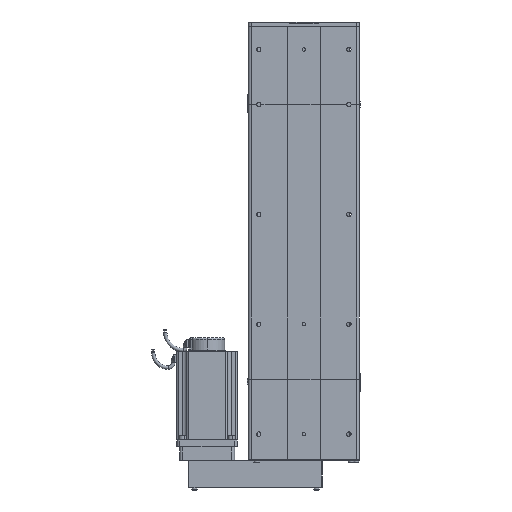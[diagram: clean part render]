
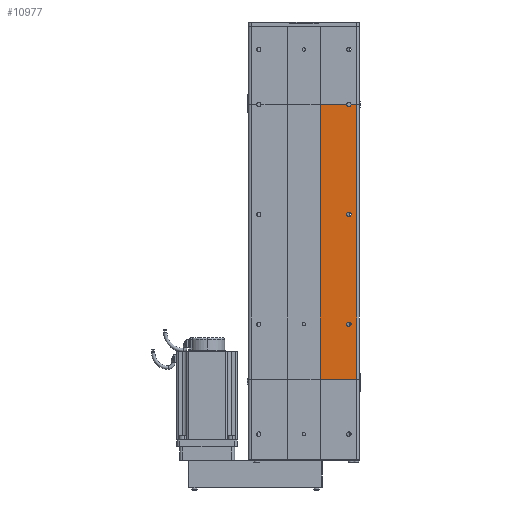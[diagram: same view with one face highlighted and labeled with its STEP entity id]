
A CAD part, front view. The second image highlights one B-rep face of the part: STEP entity #10977.
In plain terms, the highlighted planar face has unit normal (0, -1, 0).
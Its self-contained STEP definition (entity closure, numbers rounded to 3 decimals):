
#522 = CARTESIAN_POINT ( 'NONE',  ( 96., -34.5, 500. ) ) ;
#1465 = FACE_OUTER_BOUND ( 'NONE', #10587, .T. ) ;
#1602 = FACE_BOUND ( 'NONE', #11094, .T. ) ;
#1764 = FACE_BOUND ( 'NONE', #11039, .T. ) ;
#1857 = DIRECTION ( 'NONE',  ( 0., 0., -1. ) ) ;
#1858 = VECTOR ( 'NONE', #1857, 1000. ) ;
#1859 = CARTESIAN_POINT ( 'NONE',  ( 96., -34.5, 500. ) ) ;
#1861 = LINE ( 'NONE', #1859, #1858 ) ;
#1978 = CARTESIAN_POINT ( 'NONE',  ( 82., -34.5, 500. ) ) ;
#1984 = DIRECTION ( 'NONE',  ( 0., 1., 0. ) ) ;
#1985 = CARTESIAN_POINT ( 'NONE',  ( -96., -34.5, 500. ) ) ;
#1987 = AXIS2_PLACEMENT_3D ( 'NONE', #1978, #2008, #2007 ) ;
#2007 = DIRECTION ( 'NONE',  ( 1., 0., 0. ) ) ;
#2008 = DIRECTION ( 'NONE',  ( 0., -1., 0. ) ) ;
#2021 = DIRECTION ( 'NONE',  ( 1., 0., 0. ) ) ;
#2022 = DIRECTION ( 'NONE',  ( 0., -1., 0. ) ) ;
#2023 = CARTESIAN_POINT ( 'NONE',  ( 82., -34.5, 100. ) ) ;
#2024 = CIRCLE ( 'NONE', #1987, 4. ) ;
#2068 = AXIS2_PLACEMENT_3D ( 'NONE', #1985, #1984, #2121 ) ;
#2103 = PLANE ( 'NONE',  #2068 ) ;
#2115 = AXIS2_PLACEMENT_3D ( 'NONE', #2023, #2022, #2021 ) ;
#2121 = DIRECTION ( 'NONE',  ( -1., 0., 0. ) ) ;
#2135 = CIRCLE ( 'NONE', #2142, 4. ) ;
#2136 = CIRCLE ( 'NONE', #2115, 4. ) ;
#2139 = DIRECTION ( 'NONE',  ( 1., 0., 0. ) ) ;
#2140 = DIRECTION ( 'NONE',  ( 0., -1., 0. ) ) ;
#2141 = CARTESIAN_POINT ( 'NONE',  ( 82., -34.5, 300. ) ) ;
#2142 = AXIS2_PLACEMENT_3D ( 'NONE', #2141, #2140, #2139 ) ;
#2421 = LINE ( 'NONE', #2488, #2487 ) ;
#2486 = DIRECTION ( 'NONE',  ( 1., 0., 0. ) ) ;
#2487 = VECTOR ( 'NONE', #2486, 1000. ) ;
#2488 = CARTESIAN_POINT ( 'NONE',  ( -96., -34.5, 0. ) ) ;
#2623 = DIRECTION ( 'NONE',  ( 0., 0., 1. ) ) ;
#2624 = VECTOR ( 'NONE', #2623, 1000. ) ;
#2625 = CARTESIAN_POINT ( 'NONE',  ( 30., -34.5, 0. ) ) ;
#2626 = LINE ( 'NONE', #2625, #2624 ) ;
#2632 = CARTESIAN_POINT ( 'NONE',  ( 30., -34.5, 0. ) ) ;
#2764 = CARTESIAN_POINT ( 'NONE',  ( 96., -34.5, 0. ) ) ;
#8526 = VERTEX_POINT ( 'NONE', #74496 ) ;
#8664 = EDGE_CURVE ( 'NONE', #8668, #8526, #74757, .T. ) ;
#8668 = VERTEX_POINT ( 'NONE', #74762 ) ;
#8821 = EDGE_CURVE ( 'NONE', #9015, #8995, #75120, .T. ) ;
#8995 = VERTEX_POINT ( 'NONE', #75202 ) ;
#9015 = VERTEX_POINT ( 'NONE', #75199 ) ;
#9845 = VERTEX_POINT ( 'NONE', #77165 ) ;
#9960 = EDGE_CURVE ( 'NONE', #9845, #10136, #77377, .T. ) ;
#10136 = VERTEX_POINT ( 'NONE', #522 ) ;
#10587 = EDGE_LOOP ( 'NONE', ( #10985, #10996, #11028, #11029, #10956, #11357 ) ) ;
#10956 = ORIENTED_EDGE ( 'NONE', *, *, #11211, .T. ) ;
#10958 = EDGE_CURVE ( 'NONE', #10136, #11232, #1861, .T. ) ;
#10977 = ADVANCED_FACE ( 'NONE', ( #1764, #1602, #1465 ), #2103, .F. ) ;
#10981 = ORIENTED_EDGE ( 'NONE', *, *, #8664, .F. ) ;
#10982 = EDGE_CURVE ( 'NONE', #8526, #8668, #2135, .T. ) ;
#10985 = ORIENTED_EDGE ( 'NONE', *, *, #9960, .F. ) ;
#10986 = EDGE_CURVE ( 'NONE', #24364, #24103, #2136, .T. ) ;
#10987 = ORIENTED_EDGE ( 'NONE', *, *, #24191, .F. ) ;
#10993 = ORIENTED_EDGE ( 'NONE', *, *, #10986, .F. ) ;
#10996 = ORIENTED_EDGE ( 'NONE', *, *, #10998, .F. ) ;
#10998 = EDGE_CURVE ( 'NONE', #8995, #9845, #2024, .T. ) ;
#11028 = ORIENTED_EDGE ( 'NONE', *, *, #8821, .F. ) ;
#11029 = ORIENTED_EDGE ( 'NONE', *, *, #11251, .F. ) ;
#11039 = EDGE_LOOP ( 'NONE', ( #11386, #10981 ) ) ;
#11094 = EDGE_LOOP ( 'NONE', ( #10993, #10987 ) ) ;
#11211 = EDGE_CURVE ( 'NONE', #11253, #11232, #2421, .T. ) ;
#11232 = VERTEX_POINT ( 'NONE', #2764 ) ;
#11251 = EDGE_CURVE ( 'NONE', #11253, #9015, #2626, .T. ) ;
#11253 = VERTEX_POINT ( 'NONE', #2632 ) ;
#11357 = ORIENTED_EDGE ( 'NONE', *, *, #10958, .F. ) ;
#11386 = ORIENTED_EDGE ( 'NONE', *, *, #10982, .F. ) ;
#24103 = VERTEX_POINT ( 'NONE', #28983 ) ;
#24191 = EDGE_CURVE ( 'NONE', #24103, #24364, #29053, .T. ) ;
#24364 = VERTEX_POINT ( 'NONE', #29687 ) ;
#28983 = CARTESIAN_POINT ( 'NONE',  ( 78., -34.5, 100. ) ) ;
#29049 = DIRECTION ( 'NONE',  ( 1., 0., 0. ) ) ;
#29050 = DIRECTION ( 'NONE',  ( 0., -1., 0. ) ) ;
#29051 = CARTESIAN_POINT ( 'NONE',  ( 82., -34.5, 100. ) ) ;
#29052 = AXIS2_PLACEMENT_3D ( 'NONE', #29051, #29050, #29049 ) ;
#29053 = CIRCLE ( 'NONE', #29052, 4. ) ;
#29687 = CARTESIAN_POINT ( 'NONE',  ( 86., -34.5, 100. ) ) ;
#74496 = CARTESIAN_POINT ( 'NONE',  ( 86., -34.5, 300. ) ) ;
#74689 = DIRECTION ( 'NONE',  ( 1., 0., 0. ) ) ;
#74690 = DIRECTION ( 'NONE',  ( 0., -1., 0. ) ) ;
#74756 = AXIS2_PLACEMENT_3D ( 'NONE', #74763, #74690, #74689 ) ;
#74757 = CIRCLE ( 'NONE', #74756, 4. ) ;
#74762 = CARTESIAN_POINT ( 'NONE',  ( 78., -34.5, 300. ) ) ;
#74763 = CARTESIAN_POINT ( 'NONE',  ( 82., -34.5, 300. ) ) ;
#75096 = DIRECTION ( 'NONE',  ( 1., 0., 0. ) ) ;
#75097 = VECTOR ( 'NONE', #75096, 1000. ) ;
#75119 = CARTESIAN_POINT ( 'NONE',  ( -96., -34.5, 500. ) ) ;
#75120 = LINE ( 'NONE', #75119, #75097 ) ;
#75199 = CARTESIAN_POINT ( 'NONE',  ( 30., -34.5, 500. ) ) ;
#75202 = CARTESIAN_POINT ( 'NONE',  ( 78., -34.5, 500. ) ) ;
#77165 = CARTESIAN_POINT ( 'NONE',  ( 86., -34.5, 500. ) ) ;
#77377 = LINE ( 'NONE', #77384, #77382 ) ;
#77382 = VECTOR ( 'NONE', #77383, 1000. ) ;
#77383 = DIRECTION ( 'NONE',  ( 1., 0., 0. ) ) ;
#77384 = CARTESIAN_POINT ( 'NONE',  ( -96., -34.5, 500. ) ) ;
